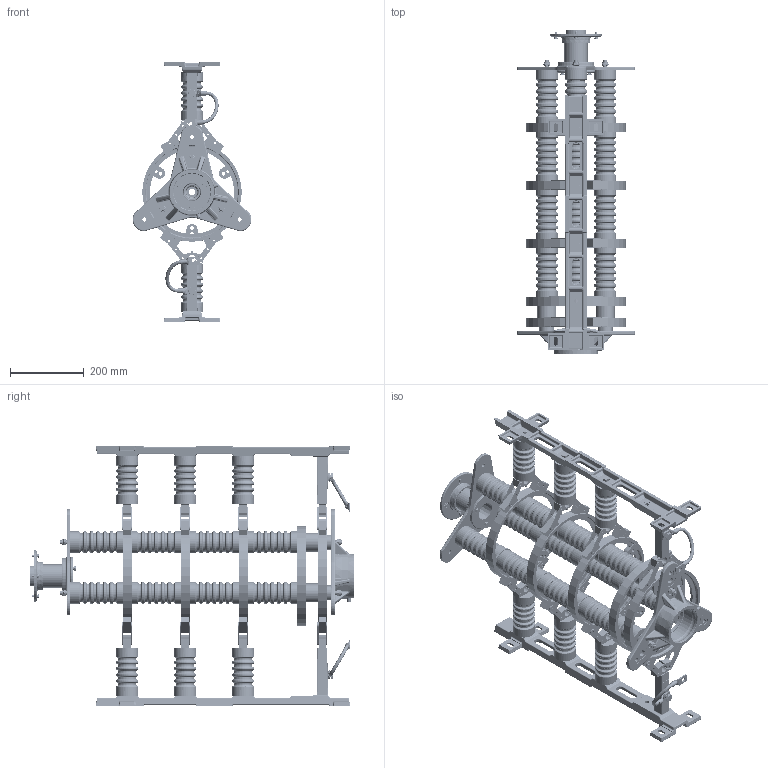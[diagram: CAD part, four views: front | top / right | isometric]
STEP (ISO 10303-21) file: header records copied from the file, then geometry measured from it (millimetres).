
FILE_DESCRIPTION(/* description */ (''),/* implementation_level */ '2;1');
FILE_NAME(/* name */ 'K:\MANDARIC\77320.stp',/* time_stamp */ '2017-12-01T09:43:05+01:00',/* author */ ('milman01'),/* organization */ ('Hillmar Industries Ltd.'),/* preprocessor_version */ 'ST-DEVELOPER v16.1',/* originating_system */ 'Autodesk Inventor 2016',/* authorisation */ '');
FILE_SCHEMA (('AUTOMOTIVE_DESIGN { 1 0 10303 214 3 1 1 }'));
Products named in the file (1): 77320 PSR-06-10KV-4B-400A SLIPRING ASSEMBLY
Bounding box: 322.51 x 879.3 x 706.14 mm (x, y, z)
Volume: 11525735.3 mm3; surface area: 1887453.4 mm2
Topology: 9 solids, 40 shells, 4278 faces, 10012 edges, 5920 vertices
Faces by surface type: cylinder 1520, plane 1272, torus 522, cone 464, bspline 304, sphere 196
Full cylindrical faces by diameter (mm): 4.917 x4, 5 x64, 5.459 x4, 6 x4, 6.647 x19, 7 x4, 7.323 x3, 8 x3, 8.376 x45, 8.7 x4, 9 x7, 9.188 x6, 10 x20, 10.106 x15, 10.5 x4, 11 x17, 11.053 x2, 11.4 x3, 12 x2, 13 x6, 13.5 x4, 15.4 x6, 15.6 x6, 16.5 x3, 17.2 x2, 17.5 x3, 18 x1, 20 x1, 23 x17, 24 x6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
Entity records: 125962 total; most frequent: CARTESIAN_POINT 29857, DIRECTION 20132, ORIENTED_EDGE 16844, EDGE_CURVE 8424, AXIS2_PLACEMENT_3D 8339, EDGE_LOOP 6028, VERTEX_POINT 5674, STYLED_ITEM 4287
